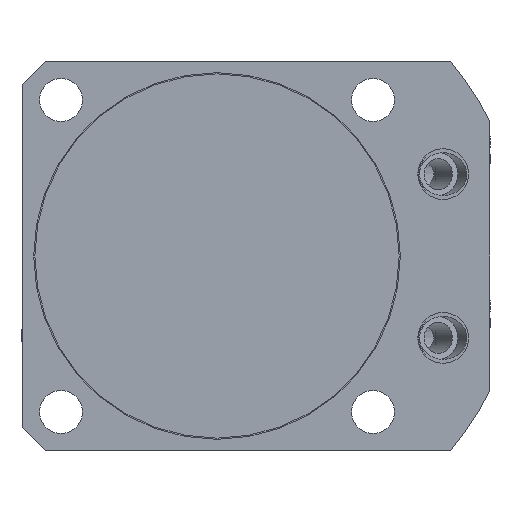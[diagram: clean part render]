
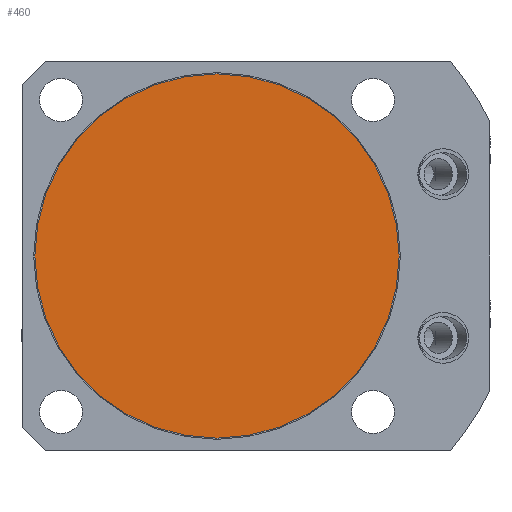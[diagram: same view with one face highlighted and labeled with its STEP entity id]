
A CAD part, front view. The second image highlights one B-rep face of the part: STEP entity #460.
In plain terms, the highlighted planar face has unit normal (0, -1, 0).
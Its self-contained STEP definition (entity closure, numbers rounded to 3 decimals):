
#460 = ADVANCED_FACE( '', ( #1037 ), #1038, .T. );
#1037 = FACE_OUTER_BOUND( '', #2073, .T. );
#1038 = PLANE( '', #2074 );
#2073 = EDGE_LOOP( '', ( #3472 ) );
#2074 = AXIS2_PLACEMENT_3D( '', #3473, #3474, #3475 );
#3472 = ORIENTED_EDGE( '', *, *, #6487, .T. );
#3473 = CARTESIAN_POINT( '', ( 0., -59., 0. ) );
#3474 = DIRECTION( '', ( 0., -1., 0. ) );
#3475 = DIRECTION( '', ( 1., 0., 0. ) );
#6487 = EDGE_CURVE( '', #7686, #7686, #7687, .T. );
#7686 = VERTEX_POINT( '', #9770 );
#7687 = CIRCLE( '', #9771, 23.35 );
#9770 = CARTESIAN_POINT( '', ( -23.35, -59., 0. ) );
#9771 = AXIS2_PLACEMENT_3D( '', #12026, #12027, #12028 );
#12026 = CARTESIAN_POINT( '', ( 0., -59., 0. ) );
#12027 = DIRECTION( '', ( 0., -1., 0. ) );
#12028 = DIRECTION( '', ( -1., 0., 0. ) );
